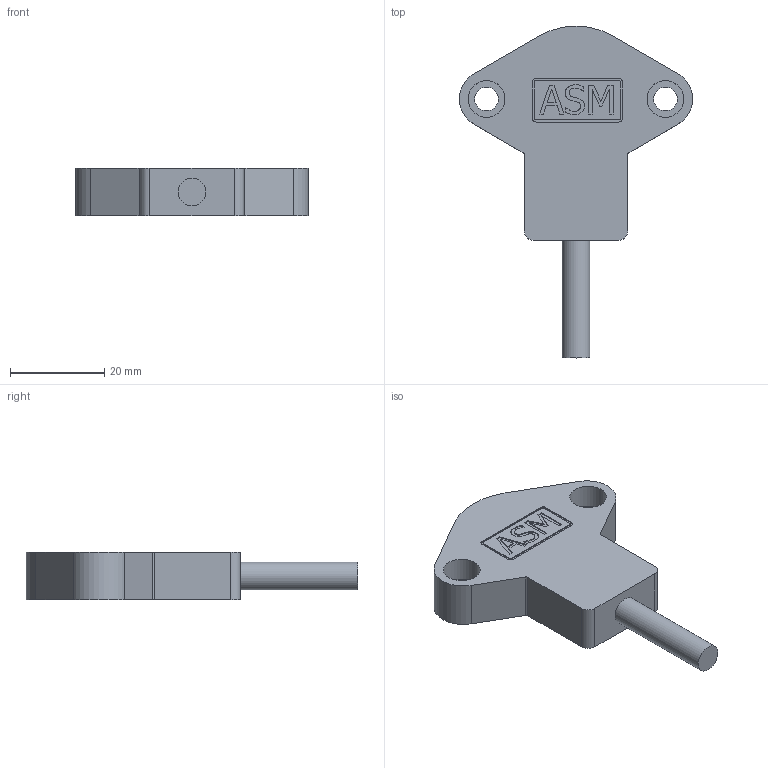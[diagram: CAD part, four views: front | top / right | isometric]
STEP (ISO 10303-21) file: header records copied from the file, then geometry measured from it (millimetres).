
FILE_DESCRIPTION((''),'2;1');
FILE_NAME('K:\Daten\121627_PRAS27 KAB_001_BKunde.stp','2010-09-22T13:15:07',('kamp'),(''),'Autodesk Inventor 2008','Autodesk Inventor 2008','');
FILE_SCHEMA(('AUTOMOTIVE_DESIGN { 1 0 10303 214 1 1 1 1 }'));
Length unit declared in the file: millimetre
Products named in the file (1): 121627_PRAS27 KAB_001_BKunde
Bounding box: 49.5 x 70.5 x 10 mm (x, y, z)
Volume: 13762.6 mm3; surface area: 5148.3 mm2
Topology: 1 solids, 1 shells, 90 faces, 237 edges, 158 vertices
Faces by surface type: plane 52, bspline 22, cylinder 16
Full cylindrical faces by diameter (mm): 5.9 x1
Entity records: 2918 total; most frequent: CARTESIAN_POINT 763, ORIENTED_EDGE 464, DIRECTION 378, EDGE_CURVE 232, VECTOR 160, LINE 160, VERTEX_POINT 158, AXIS2_PLACEMENT_3D 109
